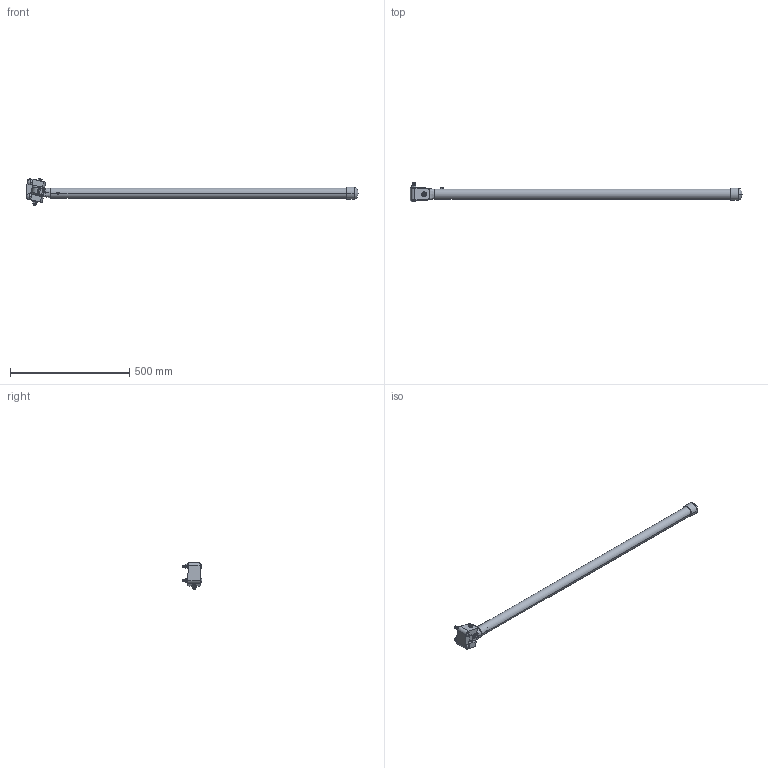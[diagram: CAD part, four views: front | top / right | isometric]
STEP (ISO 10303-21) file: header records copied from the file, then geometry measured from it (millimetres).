
FILE_DESCRIPTION(/* description */ (''),/* implementation_level */ '2;1');
FILE_NAME(/* name */ 'PG-Single',/* time_stamp */ '2018-06-18T12:02:19-05:00',/* author */ (''),/* organization */ (''),/* preprocessor_version */ 'ST-DEVELOPER v15',/* originating_system */ '',/* authorisation */ '');
FILE_SCHEMA (('AUTOMOTIVE_DESIGN_CC2'));
Length unit declared in the file: inch
Products named in the file (1): Document
Bounding box: 1390.7 x 83.57 x 112.63 mm (x, y, z)
Volume: 845473.7 mm3; surface area: 397969.5 mm2
Topology: 16 solids, 17 shells, 1342 faces, 3405 edges, 2195 vertices
Faces by surface type: bspline 828, plane 514
Entity records: 73794 total; most frequent: CARTESIAN_POINT 53628, ORIENTED_EDGE 6783, EDGE_CURVE 3395, VERTEX_POINT 2195, B_SPLINE_CURVE_WITH_KNOTS 1840, EDGE_LOOP 1484, ADVANCED_FACE 1342, FACE_OUTER_BOUND 1342
